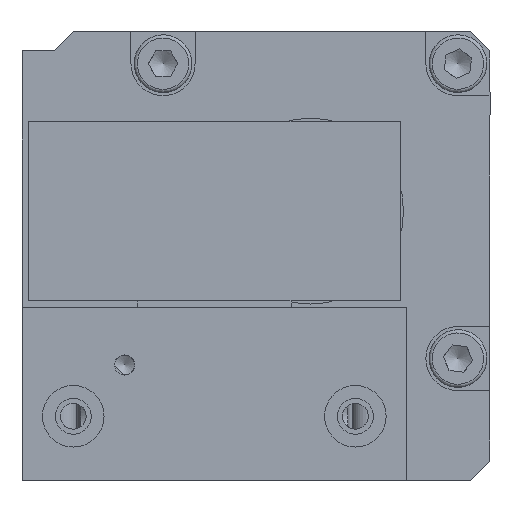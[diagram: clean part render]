
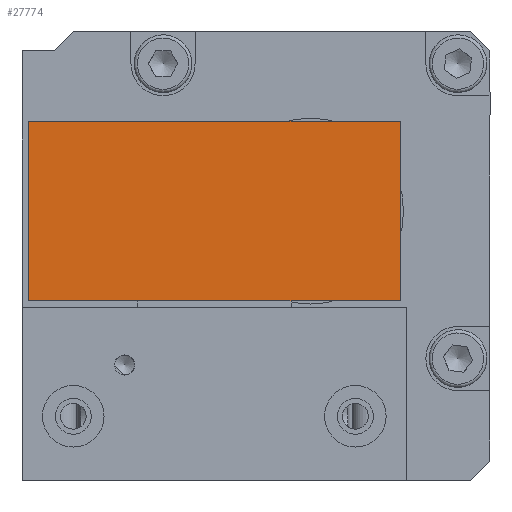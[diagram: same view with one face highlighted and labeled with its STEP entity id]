
A CAD part, left-side view. The second image highlights one B-rep face of the part: STEP entity #27774.
In plain terms, the highlighted planar face has unit normal (-1, 0, 0).
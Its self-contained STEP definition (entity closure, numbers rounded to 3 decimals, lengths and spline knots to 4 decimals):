
#2169=LINE($,#104792,#3959);
#2177=LINE($,#104846,#3967);
#2180=LINE($,#104852,#3970);
#2181=LINE($,#104853,#3971);
#3959=VECTOR($,#35251,0.5512);
#3967=VECTOR($,#35313,1.1417);
#3970=VECTOR($,#35318,1.1417);
#3971=VECTOR($,#35319,0.5512);
#6350=PLANE($,#29737);
#9044=FACE_OUTER_BOUND($,#10968,.T.);
#10968=EDGE_LOOP($,(#25812,#25813,#25814,#25815));
#14683=VERTEX_POINT($,#104785);
#14686=VERTEX_POINT($,#104790);
#14705=VERTEX_POINT($,#104845);
#14707=VERTEX_POINT($,#104851);
#18402=EDGE_CURVE($,#14686,#14683,#2169,.T.);
#18422=EDGE_CURVE($,#14705,#14683,#2177,.T.);
#18425=EDGE_CURVE($,#14686,#14707,#2180,.T.);
#18426=EDGE_CURVE($,#14707,#14705,#2181,.T.);
#25812=ORIENTED_EDGE($,*,*,#18422,.T.);
#25813=ORIENTED_EDGE($,*,*,#18402,.F.);
#25814=ORIENTED_EDGE($,*,*,#18425,.T.);
#25815=ORIENTED_EDGE($,*,*,#18426,.T.);
#27774=ADVANCED_FACE($,(#9044),#6350,.T.);
#29737=AXIS2_PLACEMENT_3D($,#104850,#35316,#35317);
#35251=DIRECTION($,(0.,0.,-1.));
#35313=DIRECTION($,(0.,-1.,0.));
#35316=DIRECTION('center_axis',(-1.,0.,0.));
#35317=DIRECTION('ref_axis',(0.,0.,-1.));
#35318=DIRECTION($,(0.,1.,0.));
#35319=DIRECTION($,(0.,0.,-1.));
#104785=CARTESIAN_POINT('',(0.4724,0.0197,0.5512));
#104790=CARTESIAN_POINT('',(0.4724,0.0197,1.1024));
#104792=CARTESIAN_POINT($,(0.4724,0.0197,1.1024));
#104845=CARTESIAN_POINT('',(0.4724,1.1614,0.5512));
#104846=CARTESIAN_POINT($,(0.4724,0.0197,0.5512));
#104850=CARTESIAN_POINT('Origin',(0.4724,1.1614,1.1024));
#104851=CARTESIAN_POINT('',(0.4724,1.1614,1.1024));
#104852=CARTESIAN_POINT($,(0.4724,0.0197,1.1024));
#104853=CARTESIAN_POINT($,(0.4724,1.1614,1.1024));
